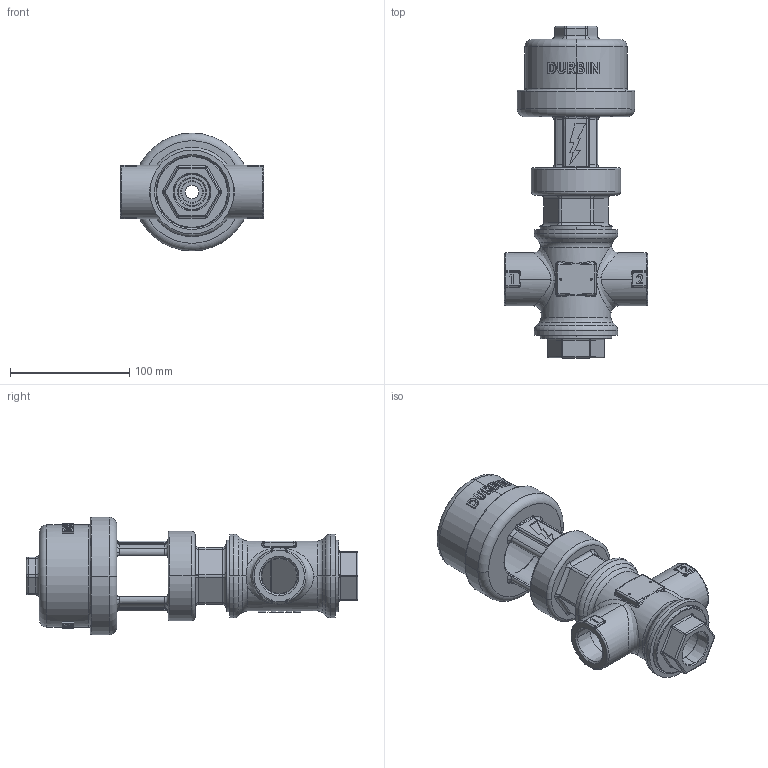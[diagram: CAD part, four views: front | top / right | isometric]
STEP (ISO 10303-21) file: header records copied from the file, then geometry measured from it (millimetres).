
FILE_DESCRIPTION (( 'STEP AP203' ), '1' );
FILE_NAME ('1.00 2W-3W NPT PSI-STEP.STEP', '2018-11-07T19:12:01', ( '' ), ( '' ), 'SwSTEP 2.0', 'SolidWorks 2012', '' );
FILE_SCHEMA (( 'CONFIG_CONTROL_DESIGN' ));
Products named in the file (6): 1.00 2W-3W NPT PSI-STEP; PSI-302-SS; DCT-203; PSI-309-SS; DCT-205; PSI-301-SS
Assembly tree (5 placements, depth 2):
  1.00 2W-3W NPT PSI-STEP
    PSI-301-SS
    DCT-205
    PSI-309-SS
    DCT-203
    PSI-302-SS
Bounding box: 120.02 x 278.43 x 98.81 mm (x, y, z)
Volume: 524125.2 mm3; surface area: 182250 mm2
Topology: 5 solids, 5 shells, 1070 faces, 2526 edges, 1482 vertices
Faces by surface type: plane 322, cylinder 232, bspline 225, torus 185, cone 74, sphere 32
Entity records: 44451 total; most frequent: CARTESIAN_POINT 20516, ORIENTED_EDGE 4952, DIRECTION 4768, EDGE_CURVE 2476, AXIS2_PLACEMENT_3D 1904, VERTEX_POINT 1482, EDGE_LOOP 1154, ADVANCED_FACE 1070
